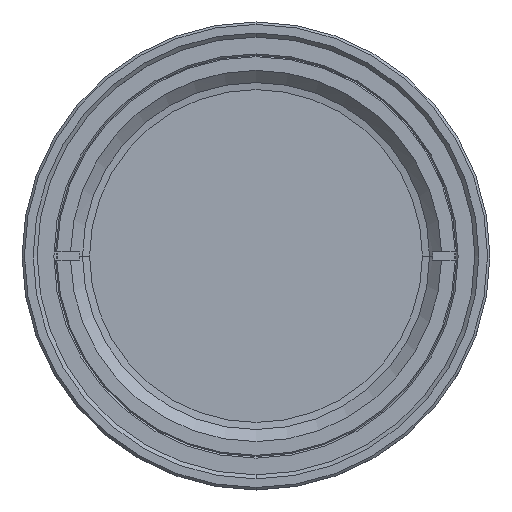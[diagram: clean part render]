
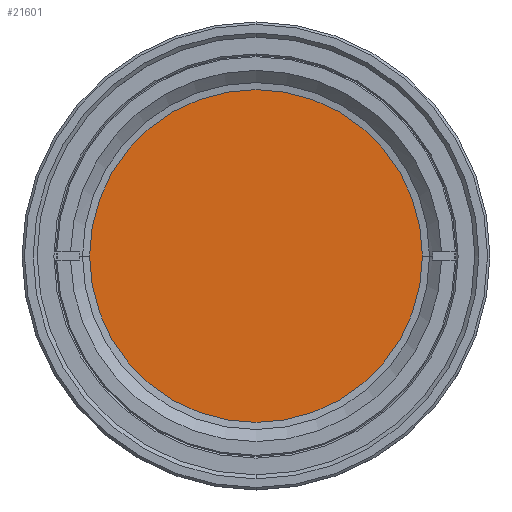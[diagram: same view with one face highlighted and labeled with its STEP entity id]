
A CAD part, top view. The second image highlights one B-rep face of the part: STEP entity #21601.
In plain terms, the highlighted planar face has unit normal (0, 0, 1).
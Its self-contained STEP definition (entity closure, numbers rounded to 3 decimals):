
#1290 = EDGE_CURVE ( 'NONE', #39127, #11296, #8177, .T. ) ;
#2677 = DIRECTION ( 'NONE',  ( 0., 0., -1. ) ) ;
#8177 = CIRCLE ( 'NONE', #32923, 20.627 ) ;
#11296 = VERTEX_POINT ( 'NONE', #25500 ) ;
#11974 = ORIENTED_EDGE ( 'NONE', *, *, #1290, .T. ) ;
#21601 = ADVANCED_FACE ( 'NONE', ( #22930 ), #30045, .F. ) ;
#22650 = DIRECTION ( 'NONE',  ( 0., 0., 1. ) ) ;
#22930 = FACE_OUTER_BOUND ( 'NONE', #52067, .T. ) ;
#25500 = CARTESIAN_POINT ( 'NONE',  ( 20.627, 0., 89.348 ) ) ;
#27048 = DIRECTION ( 'NONE',  ( 0., 0., 1. ) ) ;
#28103 = ORIENTED_EDGE ( 'NONE', *, *, #37776, .T. ) ;
#30045 = PLANE ( 'NONE',  #41840 ) ;
#32923 = AXIS2_PLACEMENT_3D ( 'NONE', #50086, #22650, #54663 ) ;
#34668 = DIRECTION ( 'NONE',  ( -1., 0., 0. ) ) ;
#35422 = CIRCLE ( 'NONE', #38792, 20.627 ) ;
#37776 = EDGE_CURVE ( 'NONE', #11296, #39127, #35422, .T. ) ;
#38792 = AXIS2_PLACEMENT_3D ( 'NONE', #54446, #27048, #59066 ) ;
#39127 = VERTEX_POINT ( 'NONE', #50583 ) ;
#41840 = AXIS2_PLACEMENT_3D ( 'NONE', #57475, #2677, #34668 ) ;
#50086 = CARTESIAN_POINT ( 'NONE',  ( 0., 0., 89.348 ) ) ;
#50583 = CARTESIAN_POINT ( 'NONE',  ( -20.627, 0., 89.348 ) ) ;
#52067 = EDGE_LOOP ( 'NONE', ( #28103, #11974 ) ) ;
#54446 = CARTESIAN_POINT ( 'NONE',  ( 0., 0., 89.348 ) ) ;
#54663 = DIRECTION ( 'NONE',  ( 1., 0., 0. ) ) ;
#57475 = CARTESIAN_POINT ( 'NONE',  ( 0., 20.627, 89.348 ) ) ;
#59066 = DIRECTION ( 'NONE',  ( 1., 0., 0. ) ) ;
